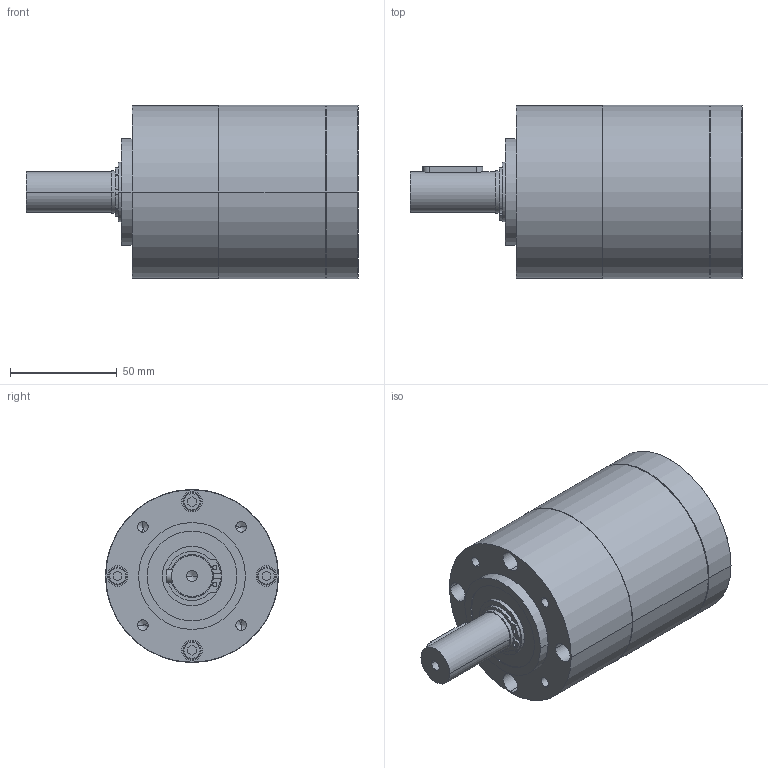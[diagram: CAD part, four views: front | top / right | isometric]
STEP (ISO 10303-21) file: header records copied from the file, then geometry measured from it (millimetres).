
FILE_DESCRIPTION((''),'2;1');
FILE_NAME('GP81-STAGE-2_SW0002','2020-09-09T10:53:31',('mmagvisi'),(''),'CREO PARAMETRIC BY PTC INC, 2019471','CREO PARAMETRIC BY PTC INC, 2019471','');
FILE_SCHEMA(('CONFIG_CONTROL_DESIGN','SHAPE_APPEARANCE_LAYERS_GROUPS'));
Length unit declared in the file: millimetre
Products named in the file (1): GP81-STAGE-2_SW0002
Bounding box: 155.3 x 81 x 81 mm (x, y, z)
Volume: 559352.3 mm3; surface area: 45569.7 mm2
Topology: 1 solids, 1 shells, 131 faces, 301 edges, 187 vertices
Faces by surface type: plane 54, cylinder 53, cone 16, torus 8
Entity records: 4648 total; most frequent: DIRECTION 675, CARTESIAN_POINT 636, ORIENTED_EDGE 582, PRESENTATION_STYLE_ASSIGNMENT 292, STYLED_ITEM 292, CURVE_STYLE 291, EDGE_CURVE 291, AXIS2_PLACEMENT_3D 257
